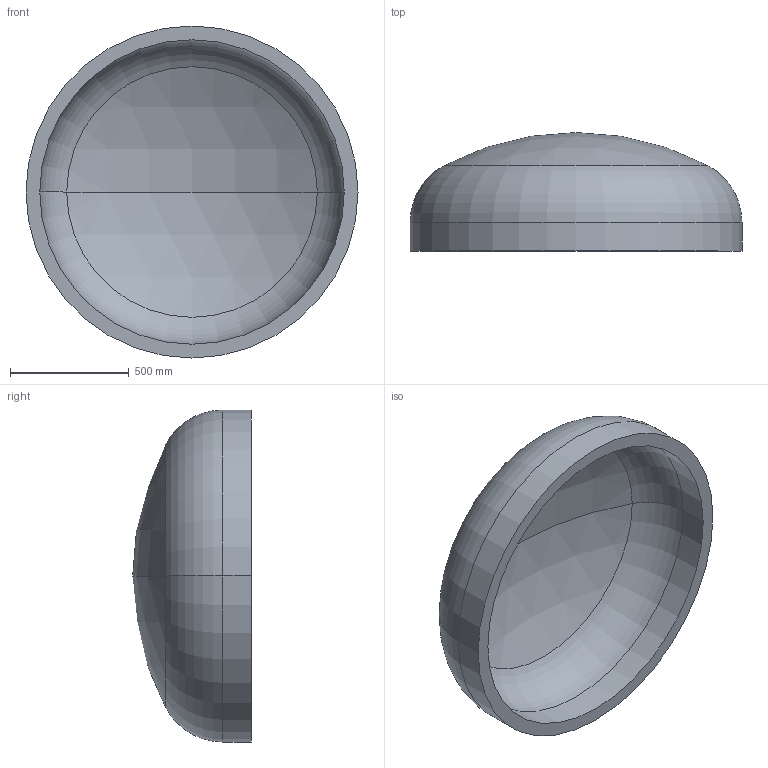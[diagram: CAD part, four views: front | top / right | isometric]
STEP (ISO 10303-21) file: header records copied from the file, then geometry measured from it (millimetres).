
FILE_DESCRIPTION (( 'STEP AP203' ), '1' );
FILE_NAME ('DIN 28013 Korbbogenform_-_Boden DIN 28013 - 1400 x 120 - I - s=58.step', '2016-07-01T10:22:00', ( '' ), ( '' ), 'SwSTEP 2.0', 'SolidWorks 2013', '' );
FILE_SCHEMA (( 'CONFIG_CONTROL_DESIGN' ));
Length unit declared in the file: millimetre
Products named in the file (1): DIN 28013 Korbbogenform_-_Boden DIN 28013 - 1400 x 120 - I - s=58
Bounding box: 1400 x 500.07 x 1400 mm (x, y, z)
Volume: 146479086.2 mm3; surface area: 5302576.2 mm2
Topology: 1 solids, 1 shells, 13 faces, 24 edges, 14 vertices
Faces by surface type: torus 4, cylinder 4, sphere 4, plane 1
Entity records: 407 total; most frequent: DIRECTION 72, CARTESIAN_POINT 52, ORIENTED_EDGE 48, AXIS2_PLACEMENT_3D 34, EDGE_CURVE 24, CIRCLE 20, VERTEX_POINT 14, EDGE_LOOP 14
